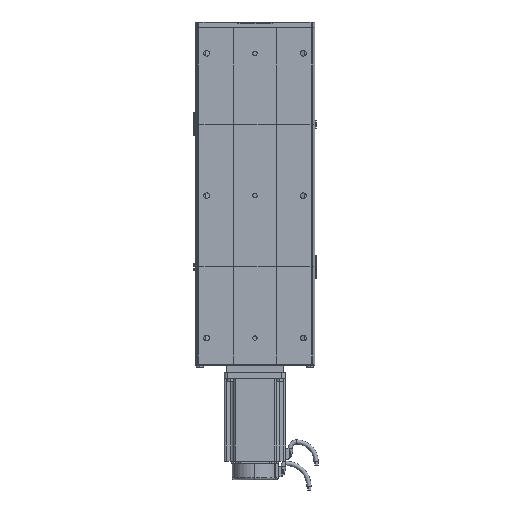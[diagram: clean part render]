
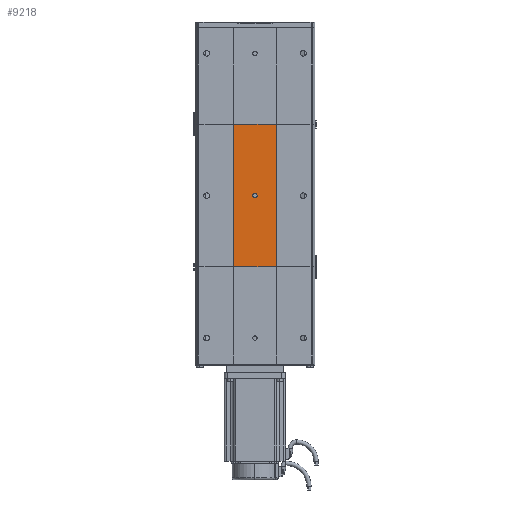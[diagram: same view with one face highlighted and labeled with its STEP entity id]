
A CAD part, front view. The second image highlights one B-rep face of the part: STEP entity #9218.
In plain terms, the highlighted planar face has unit normal (0, -1, 0).
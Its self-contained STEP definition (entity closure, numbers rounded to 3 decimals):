
#7938 = VERTEX_POINT ( 'NONE', #62346 ) ;
#7940 = EDGE_CURVE ( 'NONE', #8046, #7938, #62335, .T. ) ;
#8046 = VERTEX_POINT ( 'NONE', #62686 ) ;
#8681 = VERTEX_POINT ( 'NONE', #64241 ) ;
#8689 = VERTEX_POINT ( 'NONE', #64192 ) ;
#8699 = EDGE_CURVE ( 'NONE', #8689, #8681, #64215, .T. ) ;
#8913 = VERTEX_POINT ( 'NONE', #64725 ) ;
#8914 = VERTEX_POINT ( 'NONE', #64702 ) ;
#8916 = EDGE_CURVE ( 'NONE', #8913, #8914, #64701, .T. ) ;
#9099 = ORIENTED_EDGE ( 'NONE', *, *, #9169, .F. ) ;
#9109 = EDGE_LOOP ( 'NONE', ( #9297, #9099, #9141, #9139 ) ) ;
#9139 = ORIENTED_EDGE ( 'NONE', *, *, #9298, .T. ) ;
#9141 = ORIENTED_EDGE ( 'NONE', *, *, #8916, .F. ) ;
#9142 = EDGE_LOOP ( 'NONE', ( #9241, #9327 ) ) ;
#9169 = EDGE_CURVE ( 'NONE', #8914, #8681, #64995, .T. ) ;
#9172 = EDGE_CURVE ( 'NONE', #7938, #8046, #65098, .T. ) ;
#9218 = ADVANCED_FACE ( 'NONE', ( #65008, #65035 ), #65074, .F. ) ;
#9241 = ORIENTED_EDGE ( 'NONE', *, *, #9172, .F. ) ;
#9297 = ORIENTED_EDGE ( 'NONE', *, *, #8699, .T. ) ;
#9298 = EDGE_CURVE ( 'NONE', #8913, #8689, #65225, .T. ) ;
#9327 = ORIENTED_EDGE ( 'NONE', *, *, #7940, .F. ) ;
#62331 = DIRECTION ( 'NONE',  ( 0., 0., -1. ) ) ;
#62332 = DIRECTION ( 'NONE',  ( 0., -1., 0. ) ) ;
#62333 = CARTESIAN_POINT ( 'NONE',  ( 0., -32.5, 100. ) ) ;
#62335 = CIRCLE ( 'NONE', #62343, 3. ) ;
#62343 = AXIS2_PLACEMENT_3D ( 'NONE', #62333, #62332, #62331 ) ;
#62346 = CARTESIAN_POINT ( 'NONE',  ( 0., -32.5, 97. ) ) ;
#62686 = CARTESIAN_POINT ( 'NONE',  ( 0., -32.5, 103. ) ) ;
#64192 = CARTESIAN_POINT ( 'NONE',  ( 30., -32.5, 200. ) ) ;
#64212 = DIRECTION ( 'NONE',  ( -1., 0., 0. ) ) ;
#64213 = VECTOR ( 'NONE', #64212, 1000. ) ;
#64214 = CARTESIAN_POINT ( 'NONE',  ( -30., -32.5, 200. ) ) ;
#64215 = LINE ( 'NONE', #64214, #64213 ) ;
#64241 = CARTESIAN_POINT ( 'NONE',  ( -30., -32.5, 200. ) ) ;
#64669 = VECTOR ( 'NONE', #64703, 1000. ) ;
#64701 = LINE ( 'NONE', #64704, #64669 ) ;
#64702 = CARTESIAN_POINT ( 'NONE',  ( -30., -32.5, 0. ) ) ;
#64703 = DIRECTION ( 'NONE',  ( -1., 0., 0. ) ) ;
#64704 = CARTESIAN_POINT ( 'NONE',  ( -30., -32.5, 0. ) ) ;
#64725 = CARTESIAN_POINT ( 'NONE',  ( 30., -32.5, 0. ) ) ;
#64995 = LINE ( 'NONE', #65096, #65095 ) ;
#65002 = DIRECTION ( 'NONE',  ( 0., 0., 1. ) ) ;
#65003 = DIRECTION ( 'NONE',  ( 0., 1., 0. ) ) ;
#65004 = CARTESIAN_POINT ( 'NONE',  ( -30., -32.5, 0. ) ) ;
#65008 = FACE_BOUND ( 'NONE', #9142, .T. ) ;
#65035 = FACE_OUTER_BOUND ( 'NONE', #9109, .T. ) ;
#65074 = PLANE ( 'NONE',  #65078 ) ;
#65078 = AXIS2_PLACEMENT_3D ( 'NONE', #65004, #65003, #65002 ) ;
#65090 = DIRECTION ( 'NONE',  ( 0., -1., 0. ) ) ;
#65091 = AXIS2_PLACEMENT_3D ( 'NONE', #65097, #65090, #65112 ) ;
#65094 = DIRECTION ( 'NONE',  ( 0., 0., 1. ) ) ;
#65095 = VECTOR ( 'NONE', #65094, 1000. ) ;
#65096 = CARTESIAN_POINT ( 'NONE',  ( -30., -32.5, 0. ) ) ;
#65097 = CARTESIAN_POINT ( 'NONE',  ( 0., -32.5, 100. ) ) ;
#65098 = CIRCLE ( 'NONE', #65091, 3. ) ;
#65112 = DIRECTION ( 'NONE',  ( 0., 0., -1. ) ) ;
#65204 = CARTESIAN_POINT ( 'NONE',  ( 30., -32.5, 0. ) ) ;
#65221 = DIRECTION ( 'NONE',  ( 0., 0., 1. ) ) ;
#65225 = LINE ( 'NONE', #65204, #65251 ) ;
#65251 = VECTOR ( 'NONE', #65221, 1000. ) ;
